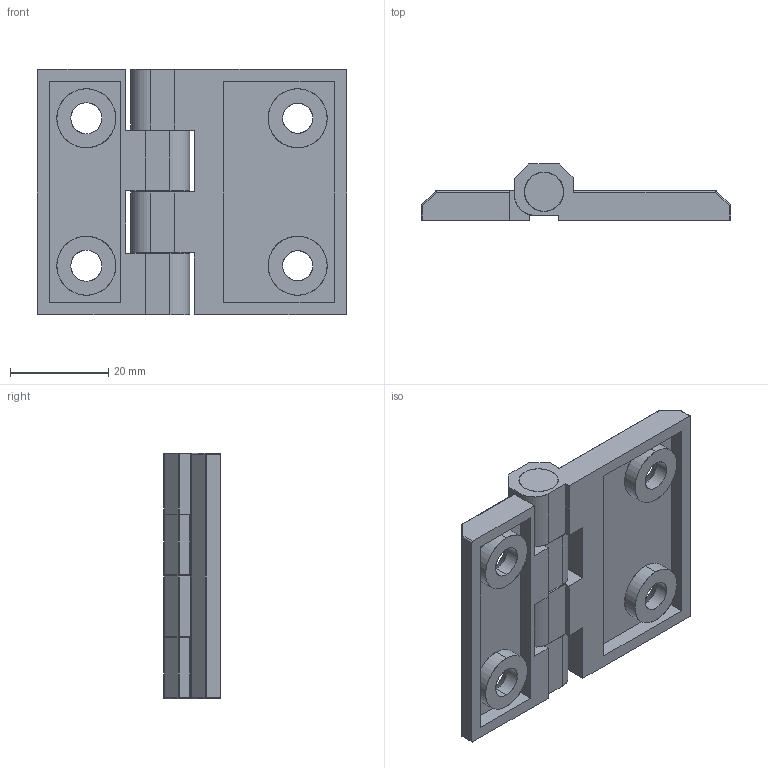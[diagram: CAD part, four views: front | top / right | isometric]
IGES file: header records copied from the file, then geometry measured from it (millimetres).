
Start section: SolidWorks IGES file using analytic representation for surfaces
Bounding box: 63 x 11.5 x 50 mm (x, y, z)
Surface area: 12547.1 mm2 (no closed solid volume)
Topology: 0 solids, 0 shells, 166 faces, 1742 edges, 1731 vertices
Faces by surface type: revolution 87, bspline 79
